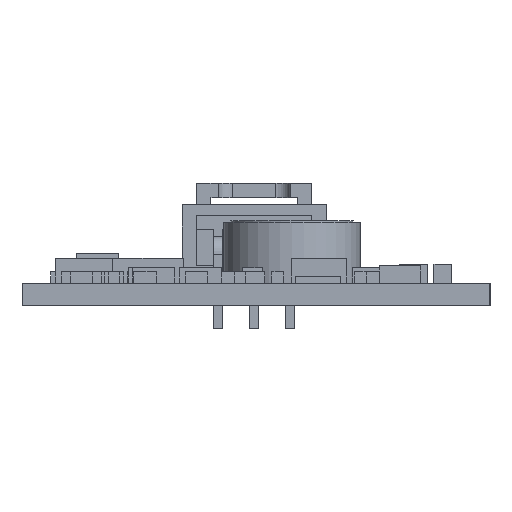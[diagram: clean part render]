
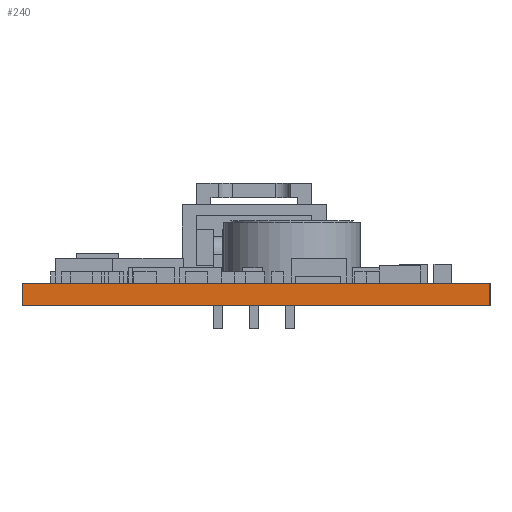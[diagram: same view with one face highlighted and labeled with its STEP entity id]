
A CAD part, left-side view. The second image highlights one B-rep face of the part: STEP entity #240.
In plain terms, the highlighted planar face has unit normal (-1, 0, 0).
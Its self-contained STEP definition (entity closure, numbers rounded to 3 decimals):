
#240 = ADVANCED_FACE('',(#241),#255,.F.);
#241 = FACE_BOUND('',#242,.F.);
#242 = EDGE_LOOP('',(#243,#278,#306,#334));
#243 = ORIENTED_EDGE('',*,*,#244,.T.);
#244 = EDGE_CURVE('',#245,#247,#249,.T.);
#245 = VERTEX_POINT('',#246);
#246 = CARTESIAN_POINT('',(25.4,58.42,0.));
#247 = VERTEX_POINT('',#248);
#248 = CARTESIAN_POINT('',(25.4,58.42,1.575));
#249 = SURFACE_CURVE('',#250,(#254,#266),.PCURVE_S1.);
#250 = LINE('',#251,#252);
#251 = CARTESIAN_POINT('',(25.4,58.42,0.));
#252 = VECTOR('',#253,1.);
#253 = DIRECTION('',(0.,0.,1.));
#254 = PCURVE('',#255,#260);
#255 = PLANE('',#256);
#256 = AXIS2_PLACEMENT_3D('',#257,#258,#259);
#257 = CARTESIAN_POINT('',(25.4,58.42,0.));
#258 = DIRECTION('',(1.,0.,0.));
#259 = DIRECTION('',(0.,-1.,0.));
#260 = DEFINITIONAL_REPRESENTATION('',(#261),#265);
#261 = LINE('',#262,#263);
#262 = CARTESIAN_POINT('',(0.,0.));
#263 = VECTOR('',#264,1.);
#264 = DIRECTION('',(0.,-1.));
#265 = ( GEOMETRIC_REPRESENTATION_CONTEXT(2) 
PARAMETRIC_REPRESENTATION_CONTEXT() REPRESENTATION_CONTEXT('2D SPACE',''
  ) );
#266 = PCURVE('',#267,#272);
#267 = PLANE('',#268);
#268 = AXIS2_PLACEMENT_3D('',#269,#270,#271);
#269 = CARTESIAN_POINT('',(81.28,58.42,0.));
#270 = DIRECTION('',(0.,-1.,0.));
#271 = DIRECTION('',(-1.,0.,0.));
#272 = DEFINITIONAL_REPRESENTATION('',(#273),#277);
#273 = LINE('',#274,#275);
#274 = CARTESIAN_POINT('',(55.88,0.));
#275 = VECTOR('',#276,1.);
#276 = DIRECTION('',(0.,-1.));
#277 = ( GEOMETRIC_REPRESENTATION_CONTEXT(2) 
PARAMETRIC_REPRESENTATION_CONTEXT() REPRESENTATION_CONTEXT('2D SPACE',''
  ) );
#278 = ORIENTED_EDGE('',*,*,#279,.T.);
#279 = EDGE_CURVE('',#247,#280,#282,.T.);
#280 = VERTEX_POINT('',#281);
#281 = CARTESIAN_POINT('',(25.4,25.4,1.575));
#282 = SURFACE_CURVE('',#283,(#287,#294),.PCURVE_S1.);
#283 = LINE('',#284,#285);
#284 = CARTESIAN_POINT('',(25.4,58.42,1.575));
#285 = VECTOR('',#286,1.);
#286 = DIRECTION('',(0.,-1.,0.));
#287 = PCURVE('',#255,#288);
#288 = DEFINITIONAL_REPRESENTATION('',(#289),#293);
#289 = LINE('',#290,#291);
#290 = CARTESIAN_POINT('',(0.,-1.575));
#291 = VECTOR('',#292,1.);
#292 = DIRECTION('',(1.,0.));
#293 = ( GEOMETRIC_REPRESENTATION_CONTEXT(2) 
PARAMETRIC_REPRESENTATION_CONTEXT() REPRESENTATION_CONTEXT('2D SPACE',''
  ) );
#294 = PCURVE('',#295,#300);
#295 = PLANE('',#296);
#296 = AXIS2_PLACEMENT_3D('',#297,#298,#299);
#297 = CARTESIAN_POINT('',(25.4,58.42,1.575));
#298 = DIRECTION('',(0.,0.,-1.));
#299 = DIRECTION('',(-1.,0.,0.));
#300 = DEFINITIONAL_REPRESENTATION('',(#301),#305);
#301 = LINE('',#302,#303);
#302 = CARTESIAN_POINT('',(0.,0.));
#303 = VECTOR('',#304,1.);
#304 = DIRECTION('',(0.,-1.));
#305 = ( GEOMETRIC_REPRESENTATION_CONTEXT(2) 
PARAMETRIC_REPRESENTATION_CONTEXT() REPRESENTATION_CONTEXT('2D SPACE',''
  ) );
#306 = ORIENTED_EDGE('',*,*,#307,.F.);
#307 = EDGE_CURVE('',#308,#280,#310,.T.);
#308 = VERTEX_POINT('',#309);
#309 = CARTESIAN_POINT('',(25.4,25.4,0.));
#310 = SURFACE_CURVE('',#311,(#315,#322),.PCURVE_S1.);
#311 = LINE('',#312,#313);
#312 = CARTESIAN_POINT('',(25.4,25.4,0.));
#313 = VECTOR('',#314,1.);
#314 = DIRECTION('',(0.,0.,1.));
#315 = PCURVE('',#255,#316);
#316 = DEFINITIONAL_REPRESENTATION('',(#317),#321);
#317 = LINE('',#318,#319);
#318 = CARTESIAN_POINT('',(33.02,0.));
#319 = VECTOR('',#320,1.);
#320 = DIRECTION('',(0.,-1.));
#321 = ( GEOMETRIC_REPRESENTATION_CONTEXT(2) 
PARAMETRIC_REPRESENTATION_CONTEXT() REPRESENTATION_CONTEXT('2D SPACE',''
  ) );
#322 = PCURVE('',#323,#328);
#323 = PLANE('',#324);
#324 = AXIS2_PLACEMENT_3D('',#325,#326,#327);
#325 = CARTESIAN_POINT('',(25.4,25.4,0.));
#326 = DIRECTION('',(0.,1.,0.));
#327 = DIRECTION('',(1.,0.,0.));
#328 = DEFINITIONAL_REPRESENTATION('',(#329),#333);
#329 = LINE('',#330,#331);
#330 = CARTESIAN_POINT('',(0.,0.));
#331 = VECTOR('',#332,1.);
#332 = DIRECTION('',(0.,-1.));
#333 = ( GEOMETRIC_REPRESENTATION_CONTEXT(2) 
PARAMETRIC_REPRESENTATION_CONTEXT() REPRESENTATION_CONTEXT('2D SPACE',''
  ) );
#334 = ORIENTED_EDGE('',*,*,#335,.F.);
#335 = EDGE_CURVE('',#245,#308,#336,.T.);
#336 = SURFACE_CURVE('',#337,(#341,#348),.PCURVE_S1.);
#337 = LINE('',#338,#339);
#338 = CARTESIAN_POINT('',(25.4,58.42,0.));
#339 = VECTOR('',#340,1.);
#340 = DIRECTION('',(0.,-1.,0.));
#341 = PCURVE('',#255,#342);
#342 = DEFINITIONAL_REPRESENTATION('',(#343),#347);
#343 = LINE('',#344,#345);
#344 = CARTESIAN_POINT('',(0.,0.));
#345 = VECTOR('',#346,1.);
#346 = DIRECTION('',(1.,0.));
#347 = ( GEOMETRIC_REPRESENTATION_CONTEXT(2) 
PARAMETRIC_REPRESENTATION_CONTEXT() REPRESENTATION_CONTEXT('2D SPACE',''
  ) );
#348 = PCURVE('',#349,#354);
#349 = PLANE('',#350);
#350 = AXIS2_PLACEMENT_3D('',#351,#352,#353);
#351 = CARTESIAN_POINT('',(25.4,58.42,0.));
#352 = DIRECTION('',(0.,0.,-1.));
#353 = DIRECTION('',(-1.,0.,0.));
#354 = DEFINITIONAL_REPRESENTATION('',(#355),#359);
#355 = LINE('',#356,#357);
#356 = CARTESIAN_POINT('',(0.,0.));
#357 = VECTOR('',#358,1.);
#358 = DIRECTION('',(0.,-1.));
#359 = ( GEOMETRIC_REPRESENTATION_CONTEXT(2) 
PARAMETRIC_REPRESENTATION_CONTEXT() REPRESENTATION_CONTEXT('2D SPACE',''
  ) );
